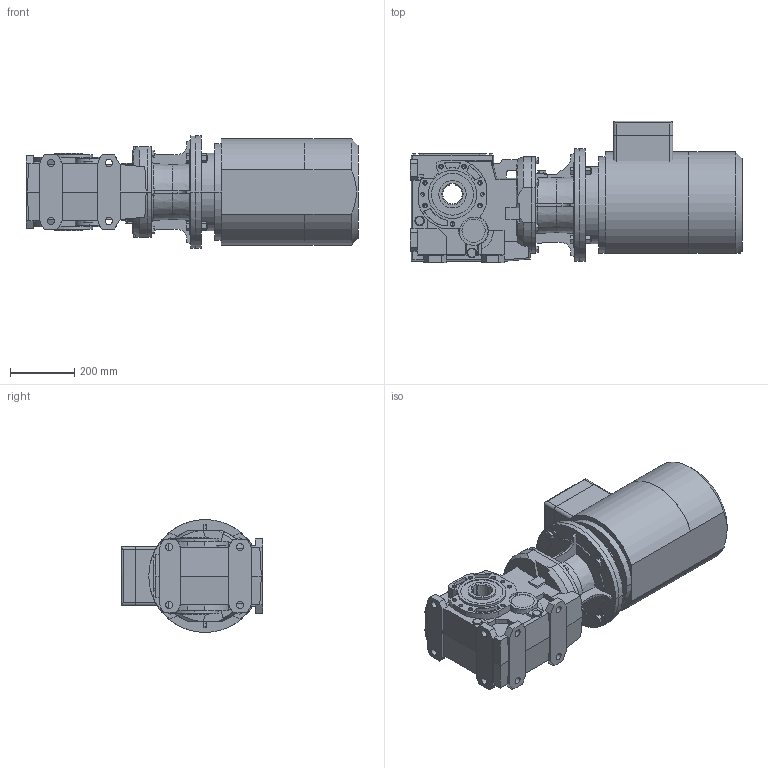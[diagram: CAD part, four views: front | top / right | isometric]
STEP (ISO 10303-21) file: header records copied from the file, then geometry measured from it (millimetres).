
FILE_DESCRIPTION( ( '' ), '1' );
FILE_NAME( '//expscmdclustefs.cadenas.external/client_exchange/iodir/jobs/output/wkb50801523_no0/STEP/B123UC7_97160_B560000000T160M1_2_03.stp', '2012-11-06T01:22:11', ( '' ), ( '' ), ' ', ' ', ' ' );
FILE_SCHEMA( ( 'CONFIG_CONTROL_DESIGN' ) );
Length unit declared in the file: millimetre
Products named in the file (7): 1; 2; 3; 4; 5; 6; 7
Bounding box: 1031 x 438.5 x 350 mm (x, y, z)
Volume: 75720762.5 mm3; surface area: 2607615.8 mm2
Topology: 7 solids, 7 shells, 932 faces, 2415 edges, 1557 vertices
Faces by surface type: plane 555, cylinder 248, cone 126, torus 3
Entity records: 28512 total; most frequent: CARTESIAN_POINT 5279, DIRECTION 4800, ORIENTED_EDGE 4758, EDGE_CURVE 2379, AXIS2_PLACEMENT_3D 1616, LINE 1568, VECTOR 1568, VERTEX_POINT 1557
